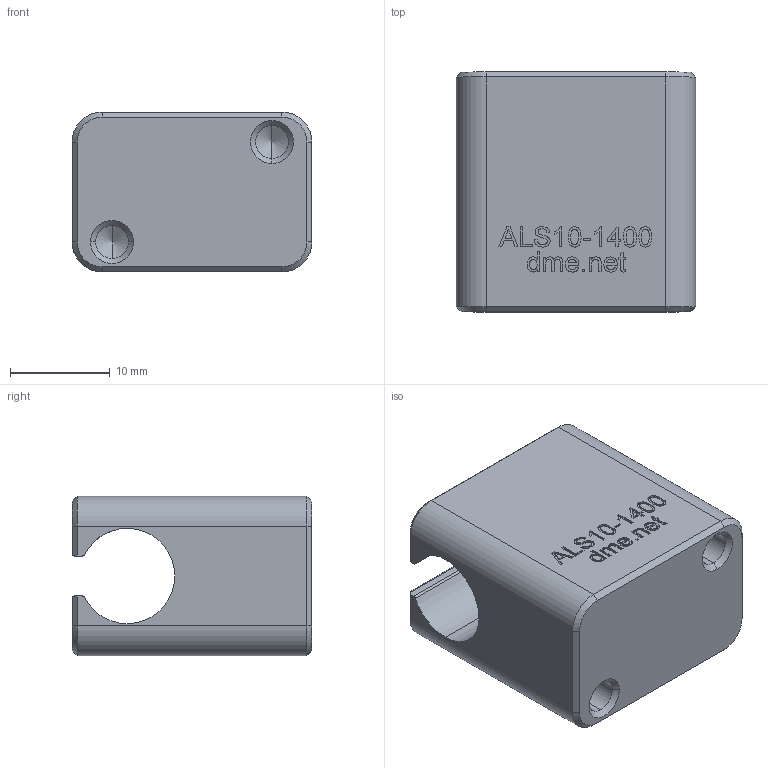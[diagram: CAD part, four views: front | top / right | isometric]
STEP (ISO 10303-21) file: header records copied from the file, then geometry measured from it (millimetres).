
FILE_DESCRIPTION (( 'STEP AP203' ), '1' );
FILE_NAME ('ALS10-1400.STEP', '2021-01-08T21:50:44', ( '' ), ( '' ), 'SwSTEP 2.0', 'SolidWorks 2020', '' );
FILE_SCHEMA (( 'CONFIG_CONTROL_DESIGN' ));
Length unit declared in the file: millimetre
Products named in the file (1): ALS10-1400
Bounding box: 24 x 24 x 16 mm (x, y, z)
Volume: 7068.6 mm3; surface area: 3112.3 mm2
Topology: 1 solids, 1 shells, 264 faces, 689 edges, 450 vertices
Faces by surface type: plane 138, bspline 95, cone 16, cylinder 15
Entity records: 13165 total; most frequent: CARTESIAN_POINT 7265, ORIENTED_EDGE 1370, DIRECTION 865, EDGE_CURVE 685, VERTEX_POINT 450, VECTOR 447, LINE 447, EDGE_LOOP 291
